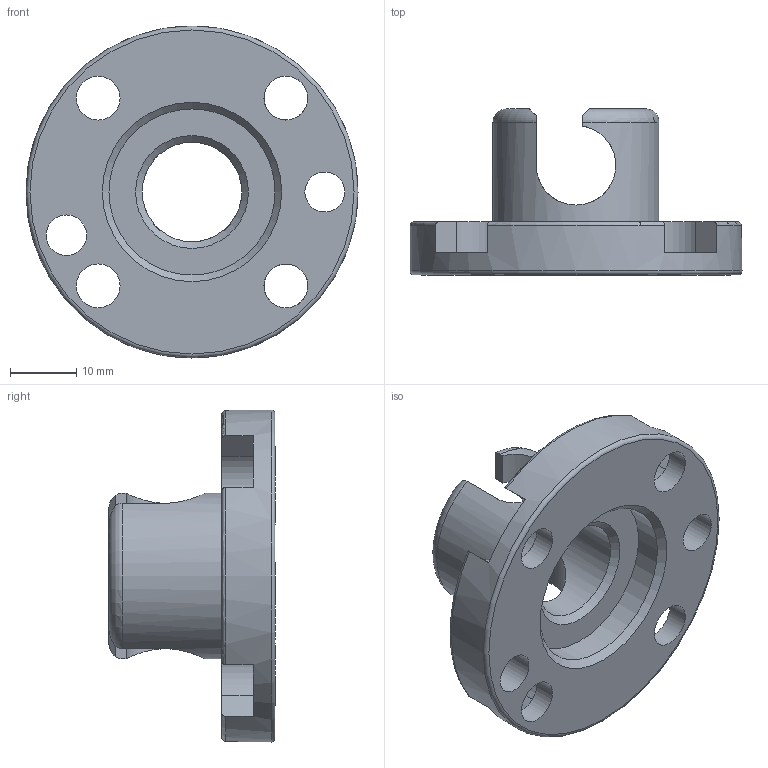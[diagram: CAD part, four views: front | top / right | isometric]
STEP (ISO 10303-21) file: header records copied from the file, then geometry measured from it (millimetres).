
FILE_DESCRIPTION((''),'2;1');
FILE_NAME('T:\CAD\Standard\Daten\3D-Datenbank\MGW\MGW050\step-Daten\G-MGW050-2U.stp','2011-04-27T14:49:37',('Yvonne'),(''),'Autodesk Inventor 2011','Autodesk Inventor 2011','');
FILE_SCHEMA(('AUTOMOTIVE_DESIGN { 1 0 10303 214 1 1 1 1 }'));
Length unit declared in the file: millimetre
Products named in the file (1): Bauteil8
Bounding box: 50 x 25 x 50 mm (x, y, z)
Volume: 13630.5 mm3; surface area: 7510.7 mm2
Topology: 1 solids, 1 shells, 52 faces, 144 edges, 95 vertices
Faces by surface type: plane 25, cylinder 16, torus 7, cone 4
Full cylindrical faces by diameter (mm): 6 x1, 6.1 x1, 6.6 x4, 15 x1, 25 x2, 50 x1
Entity records: 1853 total; most frequent: CARTESIAN_POINT 509, DIRECTION 254, ORIENTED_EDGE 248, EDGE_CURVE 124, AXIS2_PLACEMENT_3D 101, VERTEX_POINT 88, EDGE_LOOP 80, STYLED_ITEM 53
